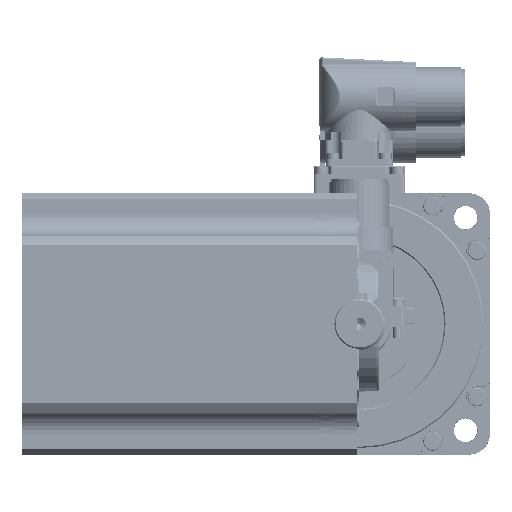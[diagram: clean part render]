
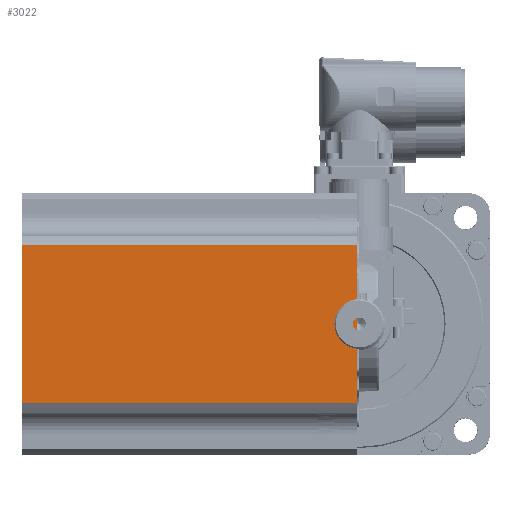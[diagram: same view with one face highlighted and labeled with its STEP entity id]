
A CAD part, front view. The second image highlights one B-rep face of the part: STEP entity #3022.
In plain terms, the highlighted planar face has unit normal (0, -1, 0).
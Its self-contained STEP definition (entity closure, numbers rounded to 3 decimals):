
#3022 = ADVANCED_FACE( '', ( #7092 ), #7093, .T. );
#7092 = FACE_OUTER_BOUND( '', #13572, .T. );
#7093 = PLANE( '', #13573 );
#13572 = EDGE_LOOP( '', ( #24815, #24816, #24817, #24818 ) );
#13573 = AXIS2_PLACEMENT_3D( '', #24819, #24820, #24821 );
#24815 = ORIENTED_EDGE( '', *, *, #36333, .F. );
#24816 = ORIENTED_EDGE( '', *, *, #33825, .T. );
#24817 = ORIENTED_EDGE( '', *, *, #36334, .F. );
#24818 = ORIENTED_EDGE( '', *, *, #36335, .T. );
#24819 = CARTESIAN_POINT( '', ( -200., -50., 50. ) );
#24820 = DIRECTION( '', ( 0., -1., 0. ) );
#24821 = DIRECTION( '', ( 0., 0., -1. ) );
#33825 = EDGE_CURVE( '', #41026, #41024, #41027, .T. );
#36333 = EDGE_CURVE( '', #41026, #45008, #45009, .T. );
#36334 = EDGE_CURVE( '', #45010, #41024, #45011, .F. );
#36335 = EDGE_CURVE( '', #45010, #45008, #45012, .T. );
#41024 = VERTEX_POINT( '', #51773 );
#41026 = VERTEX_POINT( '', #51775 );
#41027 = LINE( '', #51776, #51777 );
#45008 = VERTEX_POINT( '', #60492 );
#45009 = LINE( '', #60493, #60494 );
#45010 = VERTEX_POINT( '', #60495 );
#45011 = LINE( '', #60496, #60497 );
#45012 = LINE( '', #60498, #60499 );
#51773 = CARTESIAN_POINT( '', ( -1., -50., 30.369 ) );
#51775 = CARTESIAN_POINT( '', ( -1., -50., -30.369 ) );
#51776 = CARTESIAN_POINT( '', ( -1., -50., 50. ) );
#51777 = VECTOR( '', #67870, 1000. );
#60492 = CARTESIAN_POINT( '', ( -129., -50., -30.369 ) );
#60493 = CARTESIAN_POINT( '', ( -60., -50., -30.369 ) );
#60494 = VECTOR( '', #71008, 1000. );
#60495 = CARTESIAN_POINT( '', ( -129., -50., 30.369 ) );
#60496 = CARTESIAN_POINT( '', ( -60., -50., 30.369 ) );
#60497 = VECTOR( '', #71009, 1000. );
#60498 = CARTESIAN_POINT( '', ( -129., -50., 50. ) );
#60499 = VECTOR( '', #71010, 1000. );
#67870 = DIRECTION( '', ( 0., 0., 1. ) );
#71008 = DIRECTION( '', ( -1., 0., 0. ) );
#71009 = DIRECTION( '', ( -1., 0., 0. ) );
#71010 = DIRECTION( '', ( 0., 0., -1. ) );
